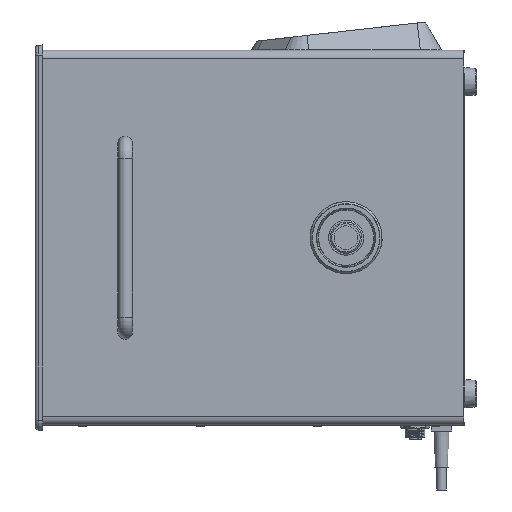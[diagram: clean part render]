
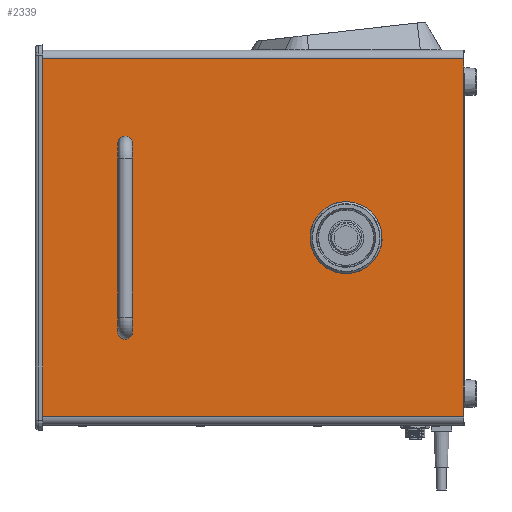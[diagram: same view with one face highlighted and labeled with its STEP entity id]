
A CAD part, left-side view. The second image highlights one B-rep face of the part: STEP entity #2339.
In plain terms, the highlighted planar face has unit normal (-1, 0, 0).
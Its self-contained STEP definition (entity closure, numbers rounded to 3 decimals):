
#274 = VERTEX_POINT ( 'NONE', #15649 ) ;
#362 = VERTEX_POINT ( 'NONE', #11356 ) ;
#888 = FACE_BOUND ( 'NONE', #6591, .T. ) ;
#1137 = AXIS2_PLACEMENT_3D ( 'NONE', #22269, #17760, #4659 ) ;
#1389 = FACE_OUTER_BOUND ( 'NONE', #23920, .T. ) ;
#1405 = ORIENTED_EDGE ( 'NONE', *, *, #3506, .T. ) ;
#2339 = ADVANCED_FACE ( 'NONE', ( #20773, #888, #18462, #1389 ), #22460, .F. ) ;
#2364 = LINE ( 'NONE', #9700, #24412 ) ;
#2569 = CIRCLE ( 'NONE', #13223, 2.1 ) ;
#2570 = VERTEX_POINT ( 'NONE', #7794 ) ;
#3129 = EDGE_LOOP ( 'NONE', ( #7881 ) ) ;
#3426 = VERTEX_POINT ( 'NONE', #14908 ) ;
#3506 = EDGE_CURVE ( 'NONE', #18674, #3426, #10820, .T. ) ;
#4120 = EDGE_CURVE ( 'NONE', #25238, #3426, #23389, .T. ) ;
#4380 = ORIENTED_EDGE ( 'NONE', *, *, #6456, .T. ) ;
#4585 = EDGE_CURVE ( 'NONE', #274, #274, #2569, .T. ) ;
#4659 = DIRECTION ( 'NONE',  ( 0., 0., -1. ) ) ;
#4667 = ORIENTED_EDGE ( 'NONE', *, *, #10206, .T. ) ;
#4837 = DIRECTION ( 'NONE',  ( 0., 0., -1. ) ) ;
#5044 = DIRECTION ( 'NONE',  ( 1., 0., 0. ) ) ;
#6456 = EDGE_CURVE ( 'NONE', #11546, #362, #2364, .T. ) ;
#6500 = ORIENTED_EDGE ( 'NONE', *, *, #24875, .F. ) ;
#6518 = CIRCLE ( 'NONE', #1137, 2.1 ) ;
#6575 = CIRCLE ( 'NONE', #18471, 20.25 ) ;
#6591 = EDGE_LOOP ( 'NONE', ( #22039 ) ) ;
#6693 = DIRECTION ( 'NONE',  ( 0., 1., 0. ) ) ;
#7316 = CARTESIAN_POINT ( 'NONE',  ( -157.5, -289., -111.7 ) ) ;
#7452 = DIRECTION ( 'NONE',  ( 0., 1., 0. ) ) ;
#7681 = VERTEX_POINT ( 'NONE', #9757 ) ;
#7794 = CARTESIAN_POINT ( 'NONE',  ( -157.5, -289., -121.7 ) ) ;
#7877 = EDGE_LOOP ( 'NONE', ( #4667 ) ) ;
#7881 = ORIENTED_EDGE ( 'NONE', *, *, #13644, .T. ) ;
#7883 = VECTOR ( 'NONE', #19918, 1000. ) ;
#7941 = ORIENTED_EDGE ( 'NONE', *, *, #14889, .F. ) ;
#9125 = CARTESIAN_POINT ( 'NONE',  ( -157.5, -59., -66.1 ) ) ;
#9700 = CARTESIAN_POINT ( 'NONE',  ( -157.5, 0., -127.5 ) ) ;
#9757 = CARTESIAN_POINT ( 'NONE',  ( -157.5, -209.15, -20.25 ) ) ;
#10003 = AXIS2_PLACEMENT_3D ( 'NONE', #10797, #14853, #4837 ) ;
#10196 = LINE ( 'NONE', #24316, #10352 ) ;
#10206 = EDGE_CURVE ( 'NONE', #24914, #24914, #6518, .T. ) ;
#10352 = VECTOR ( 'NONE', #6693, 1000. ) ;
#10677 = LINE ( 'NONE', #12088, #7883 ) ;
#10797 = CARTESIAN_POINT ( 'NONE',  ( -157.5, -289., -127.5 ) ) ;
#10820 = LINE ( 'NONE', #7316, #20999 ) ;
#11222 = VECTOR ( 'NONE', #21061, 1000. ) ;
#11315 = CARTESIAN_POINT ( 'NONE',  ( -157.5, -289., -121.7 ) ) ;
#11356 = CARTESIAN_POINT ( 'NONE',  ( -157.5, 0., -121.7 ) ) ;
#11546 = VERTEX_POINT ( 'NONE', #19863 ) ;
#11744 = DIRECTION ( 'NONE',  ( 0., 0., -1. ) ) ;
#12088 = CARTESIAN_POINT ( 'NONE',  ( -157.5, -289., -127.5 ) ) ;
#12735 = ORIENTED_EDGE ( 'NONE', *, *, #4120, .F. ) ;
#12925 = DIRECTION ( 'NONE',  ( 0., 0., -1. ) ) ;
#13223 = AXIS2_PLACEMENT_3D ( 'NONE', #16101, #18165, #23718 ) ;
#13644 = EDGE_CURVE ( 'NONE', #7681, #7681, #6575, .T. ) ;
#14853 = DIRECTION ( 'NONE',  ( 1., 0., 0. ) ) ;
#14889 = EDGE_CURVE ( 'NONE', #2570, #362, #19119, .T. ) ;
#14908 = CARTESIAN_POINT ( 'NONE',  ( -157.5, -289., 111.7 ) ) ;
#15002 = DIRECTION ( 'NONE',  ( 0., 0., 1. ) ) ;
#15141 = CARTESIAN_POINT ( 'NONE',  ( -157.5, -289., -127.5 ) ) ;
#15649 = CARTESIAN_POINT ( 'NONE',  ( -157.5, -59., 61.9 ) ) ;
#16101 = CARTESIAN_POINT ( 'NONE',  ( -157.5, -59., 64. ) ) ;
#17615 = CARTESIAN_POINT ( 'NONE',  ( -157.5, -289., 121.7 ) ) ;
#17760 = DIRECTION ( 'NONE',  ( 1., 0., 0. ) ) ;
#18165 = DIRECTION ( 'NONE',  ( 1., 0., 0. ) ) ;
#18262 = ORIENTED_EDGE ( 'NONE', *, *, #24578, .T. ) ;
#18462 = FACE_BOUND ( 'NONE', #7877, .T. ) ;
#18471 = AXIS2_PLACEMENT_3D ( 'NONE', #22673, #5044, #12925 ) ;
#18674 = VERTEX_POINT ( 'NONE', #24111 ) ;
#19119 = LINE ( 'NONE', #11315, #23457 ) ;
#19863 = CARTESIAN_POINT ( 'NONE',  ( -157.5, 0., 121.7 ) ) ;
#19918 = DIRECTION ( 'NONE',  ( 0., 0., -1. ) ) ;
#20773 = FACE_BOUND ( 'NONE', #3129, .T. ) ;
#20999 = VECTOR ( 'NONE', #15002, 1000. ) ;
#21061 = DIRECTION ( 'NONE',  ( 0., 0., -1. ) ) ;
#22039 = ORIENTED_EDGE ( 'NONE', *, *, #4585, .T. ) ;
#22269 = CARTESIAN_POINT ( 'NONE',  ( -157.5, -59., -64. ) ) ;
#22460 = PLANE ( 'NONE',  #10003 ) ;
#22673 = CARTESIAN_POINT ( 'NONE',  ( -157.5, -209.15, 0. ) ) ;
#23389 = LINE ( 'NONE', #15141, #11222 ) ;
#23457 = VECTOR ( 'NONE', #7452, 1000. ) ;
#23718 = DIRECTION ( 'NONE',  ( 0., 0., -1. ) ) ;
#23920 = EDGE_LOOP ( 'NONE', ( #4380, #7941, #6500, #1405, #12735, #18262 ) ) ;
#24111 = CARTESIAN_POINT ( 'NONE',  ( -157.5, -289., -111.7 ) ) ;
#24316 = CARTESIAN_POINT ( 'NONE',  ( -157.5, -289., 121.7 ) ) ;
#24412 = VECTOR ( 'NONE', #11744, 1000. ) ;
#24578 = EDGE_CURVE ( 'NONE', #25238, #11546, #10196, .T. ) ;
#24875 = EDGE_CURVE ( 'NONE', #18674, #2570, #10677, .T. ) ;
#24914 = VERTEX_POINT ( 'NONE', #9125 ) ;
#25238 = VERTEX_POINT ( 'NONE', #17615 ) ;
